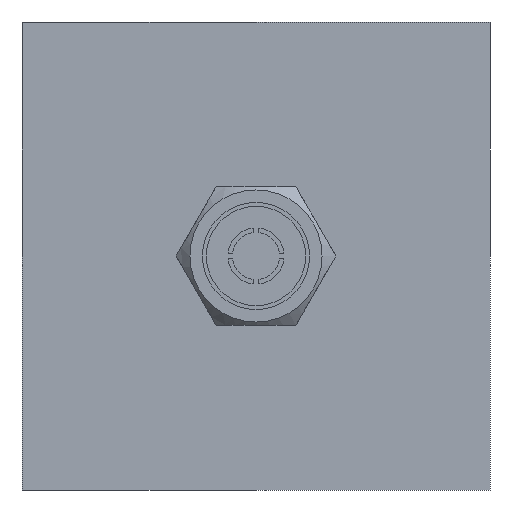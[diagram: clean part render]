
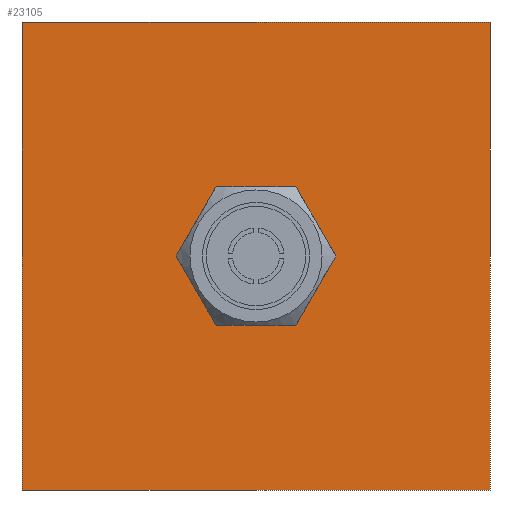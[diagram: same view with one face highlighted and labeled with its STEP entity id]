
A CAD part, front view. The second image highlights one B-rep face of the part: STEP entity #23105.
In plain terms, the highlighted planar face has unit normal (0, -1, 0).
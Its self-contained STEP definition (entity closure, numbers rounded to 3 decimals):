
#541=CIRCLE('',#24105,9.855);
#1259=ORIENTED_EDGE('',*,*,#5827,.T.);
#1260=ORIENTED_EDGE('',*,*,#5826,.T.);
#1261=ORIENTED_EDGE('',*,*,#5823,.T.);
#1262=ORIENTED_EDGE('',*,*,#5821,.T.);
#1263=ORIENTED_EDGE('',*,*,#5818,.T.);
#5818=EDGE_CURVE('',#8158,#8159,#9807,.T.);
#5821=EDGE_CURVE('',#8160,#8158,#9810,.T.);
#5823=EDGE_CURVE('',#8161,#8160,#9812,.T.);
#5826=EDGE_CURVE('',#8159,#8161,#9814,.T.);
#5827=EDGE_CURVE('',#8163,#8163,#541,.T.);
#8158=VERTEX_POINT('',#29785);
#8159=VERTEX_POINT('',#29786);
#8160=VERTEX_POINT('',#29791);
#8161=VERTEX_POINT('',#29795);
#8163=VERTEX_POINT('',#29803);
#9807=LINE('',#29784,#11693);
#9810=LINE('',#29790,#11696);
#9812=LINE('',#29794,#11698);
#9814=LINE('',#29800,#11700);
#11693=VECTOR('',#25606,1000.);
#11696=VECTOR('',#25611,1000.);
#11698=VECTOR('',#25615,1000.);
#11700=VECTOR('',#25621,1000.);
#13549=EDGE_LOOP('',(#1259));
#13550=EDGE_LOOP('',(#1260,#1261,#1262,#1263));
#14673=FACE_BOUND('',#13549,.T.);
#14674=FACE_BOUND('',#13550,.T.);
#15719=PLANE('',#24104);
#23105=ADVANCED_FACE('',(#14673,#14674),#15719,.T.);
#24104=AXIS2_PLACEMENT_3D('',#29801,#25622,#25623);
#24105=AXIS2_PLACEMENT_3D('',#29802,#25624,#25625);
#25606=DIRECTION('',(-1.,0.,0.));
#25611=DIRECTION('',(0.,0.,1.));
#25615=DIRECTION('',(1.,0.,0.));
#25621=DIRECTION('',(0.,0.,-1.));
#25622=DIRECTION('',(0.,-1.,0.));
#25623=DIRECTION('',(0.,0.,-1.));
#25624=DIRECTION('',(0.,1.,0.));
#25625=DIRECTION('',(1.,0.,0.));
#29784=CARTESIAN_POINT('',(0.,0.,34.925));
#29785=CARTESIAN_POINT('',(34.925,0.,34.925));
#29786=CARTESIAN_POINT('',(-34.925,0.,34.925));
#29790=CARTESIAN_POINT('',(34.925,0.,0.));
#29791=CARTESIAN_POINT('',(34.925,0.,-34.925));
#29794=CARTESIAN_POINT('',(0.,0.,-34.925));
#29795=CARTESIAN_POINT('',(-34.925,0.,-34.925));
#29800=CARTESIAN_POINT('',(-34.925,0.,0.));
#29801=CARTESIAN_POINT('',(0.,0.,0.));
#29802=CARTESIAN_POINT('',(0.,0.,0.));
#29803=CARTESIAN_POINT('',(9.855,0.,0.));
